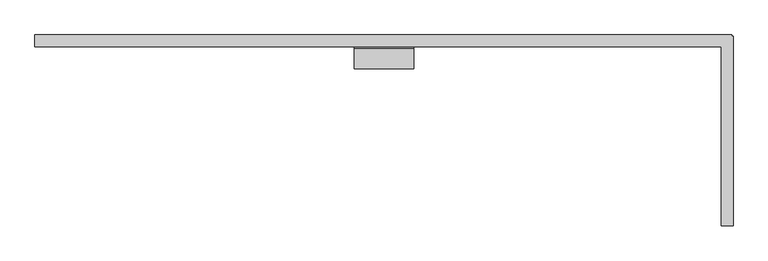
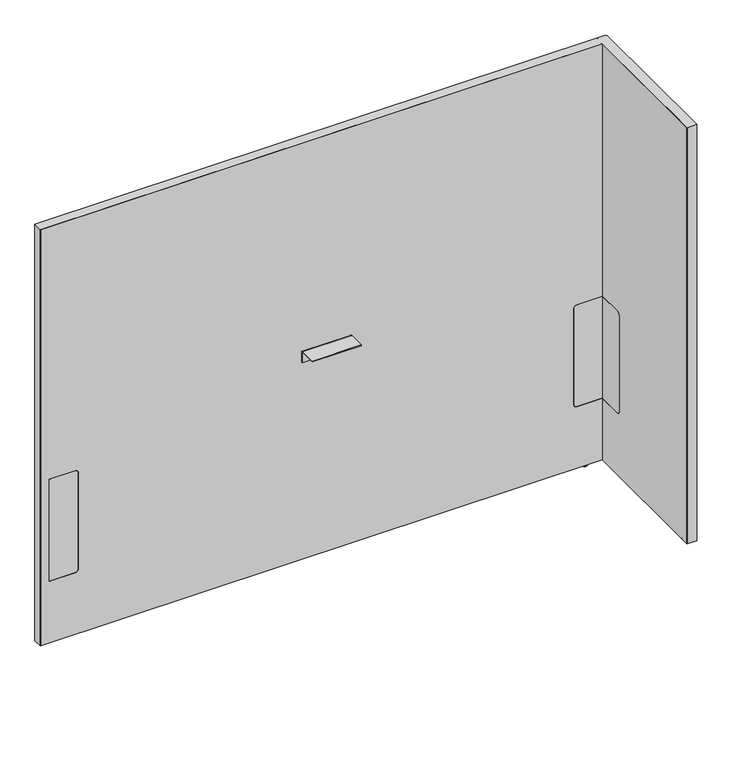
"""IFC4 building model written with IfcOpenShell, lengths in millimetres: furniture geometry, Steelcase - Answer Solution - Boundary Screen - L Return - Single Sided : 54H x 69W."""

from ifc_helpers import new_model, si_unit, point, frame, frame_2d, origin, place, context, project, spatial, polyline, circle_curve, ellipse_curve, trimmed, segment, composite_curve, outline, extrude, faceted_brep, source, transform, mapped, element, save
from ifc_brep_helpers import plane_surface, cylinder_surface, revolved_surface, advanced_brep


def furniture_f73a18ae(model_context):
    return source(origin(), model_context, "Body", "SolidModel", [
        extrude(outline(composite_curve([segment(polyline([(-109.3501471, 549.6162029), (-29.0550397, 549.6162029), (-29.0550397, 213.7762137), (-109.3501471, 213.7762137)]), True, "CONTINUOUS"), segment(trimmed(circle_curve(frame_2d((-109.3501471, 223.9362137)), 10.16), [point((-109.3501471, 213.7762137))], [point((-119.5101471, 223.9362137))], False, "CARTESIAN"), True, "CONTINUOUS"), segment(polyline([(-119.5101471, 223.9362137), (-119.5101471, 539.4562029)]), True, "CONTINUOUS"), segment(trimmed(circle_curve(frame_2d((-109.3501471, 539.4562029)), 10.16), [point((-119.5101471, 539.4562029))], [point((-109.3501471, 549.6162029))], False, "CARTESIAN"), True, "CONTINUOUS")], self_intersect=False)), frame((1982.4191891, 0.0, 0.0), z_axis=(1.0, 0.0, 0.0), x_axis=(0.0, 1.0, 0.0)), (0.0, 0.0, 1.0), 0.6401544),
        advanced_brep(
        [(1997.2672074, -448.0136072, 0.0), (2004.2216144, -448.0136072, 0.0), (1990.3128003, -448.0136072, 0.0), (2005.6762685, -448.0136072, 1.2700001), (1988.8581463, -448.0136072, 1.2700001), (2005.6762685, -448.0136072, 2.9673238), (1988.8581463, -448.0136072, 2.9673238), (2006.6427877, -448.0136072, 2.9673238), (1987.891627, -448.0136072, 2.9673238), (2006.6427877, -448.0136072, 9.9059849), (1987.891627, -448.0136072, 9.9059849), (1997.2672074, -448.0136072, 9.9059849)],
        [
            (0, 1),
            (1, 2, circle_curve(frame((1997.2672074, -448.0136072, 0.0), z_axis=(0.0, 0.0, -1.0), x_axis=(1.0, 0.0, 0.0)), 6.9544071)),
            (2, 0),
            (2, 1, circle_curve(frame((1997.2672074, -448.0136072, 0.0), z_axis=(0.0, 0.0, -1.0), x_axis=(1.0, 0.0, 0.0)), 6.9544071)),
            (1, 3, circle_curve(frame((2004.3945484, -448.0136072, 1.2700001), z_axis=(0.0, -1.0, 0.0), x_axis=(0.0, 0.0, 1.0)), 1.2817201)),
            (3, 4, circle_curve(frame((1997.2672074, -448.0136072, 1.2700001), z_axis=(0.0, 0.0, -1.0), x_axis=(1.0, 0.0, 0.0)), 8.4090611)),
            (4, 2, circle_curve(frame((1990.1398663, -448.0136072, 1.2700001), z_axis=(0.0, -1.0, 0.0), x_axis=(0.0, 0.0, 1.0)), 1.2817201)),
            (4, 3, circle_curve(frame((1997.2672074, -448.0136072, 1.2700001), z_axis=(0.0, 0.0, -1.0), x_axis=(1.0, 0.0, 0.0)), 8.4090611)),
            (3, 5),
            (5, 6, circle_curve(frame((1997.2672074, -448.0136072, 2.9673238), z_axis=(0.0, 0.0, -1.0), x_axis=(1.0, 0.0, 0.0)), 8.4090611)),
            (6, 4),
            (6, 5, circle_curve(frame((1997.2672074, -448.0136072, 2.9673238), z_axis=(0.0, 0.0, -1.0), x_axis=(1.0, 0.0, 0.0)), 8.4090611)),
            (5, 7),
            (7, 8, circle_curve(frame((1997.2672074, -448.0136072, 2.9673238), z_axis=(0.0, 0.0, -1.0), x_axis=(1.0, 0.0, 0.0)), 9.3755804)),
            (8, 6),
            (8, 7, circle_curve(frame((1997.2672074, -448.0136072, 2.9673238), z_axis=(0.0, 0.0, -1.0), x_axis=(1.0, 0.0, 0.0)), 9.3755804)),
            (7, 9),
            (9, 10, circle_curve(frame((1997.2672074, -448.0136072, 9.9059849), z_axis=(0.0, 0.0, -1.0), x_axis=(1.0, 0.0, 0.0)), 9.3755804)),
            (10, 8),
            (10, 9, circle_curve(frame((1997.2672074, -448.0136072, 9.9059849), z_axis=(0.0, 0.0, -1.0), x_axis=(1.0, 0.0, 0.0)), 9.3755804)),
            (9, 11),
            (11, 10),
        ],
        [
            plane_surface(frame((1997.2672074, -448.0136072, 0.0), z_axis=(0.0, 0.0, -1.0), x_axis=(1.0, 0.0, 0.0))),
            revolved_surface(trimmed(ellipse_curve(frame((2004.3945484, -448.0136072, 1.2700001), z_axis=(0.0, 1.0, 0.0), x_axis=(0.0, 0.0, 1.0)), 1.2817201, 1.2817201), [point((2005.6762685, -448.0136072, 1.2700001))], [point((2004.2216144, -448.0136072, 0.0))], True, "CARTESIAN"), (1997.2672074, -448.0136072, 9.9059849), (0.0, 0.0, -1.0)),
            cylinder_surface(frame((1997.2672074, -448.0136072, 9.9059849), z_axis=(0.0, 0.0, -1.0), x_axis=(1.0, 0.0, 0.0)), 8.4090611),
            plane_surface(frame((1997.2672074, -448.0136072, 2.9673238), z_axis=(0.0, 0.0, -1.0), x_axis=(1.0, 0.0, 0.0))),
            cylinder_surface(frame((1997.2672074, -448.0136072, 9.9059849), z_axis=(0.0, 0.0, -1.0), x_axis=(1.0, 0.0, 0.0)), 9.3755804),
            plane_surface(frame((1997.2672074, -448.0136072, 9.9059849), z_axis=(0.0, 0.0, 1.0), x_axis=(1.0, 0.0, 0.0))),
        ],
        [
            (0, [[1, 2, 3]]),
            (0, [[-3, 4, -1]]),
            (1, [[-2, 5, 6, 7]]),
            (1, [[-4, -7, 8, -5]]),
            (2, [[-6, 9, 10, 11]]),
            (2, [[-8, -11, 12, -9]]),
            (3, [[-10, 13, 14, 15]]),
            (3, [[-12, -15, 16, -13]]),
            (4, [[-14, 17, 18, 19]]),
            (4, [[-16, -19, 20, -17]]),
            (5, [[-18, 21, 22]]),
            (5, [[-20, -22, -21]]),
        ],
    ),
        faceted_brep([(2008.8531179, 0.0, 1382.522), (2008.8531179, 0.0, 9.9059849), (2007.8621491, 0.0, 9.9059849), (2007.8621491, 0.0, 1381.542118), (230.8097779, 0.0, 1381.542118), (230.8097779, 0.0, 9.9059849), (229.8191891, 0.0, 9.9059849), (229.8191891, 0.0, 1382.522), (229.8191891, -29.6898332, 1382.522), (229.8191891, -29.6898332, 9.9059849), (230.8097779, -29.6898332, 9.9059849), (230.8097779, -29.6898332, 1381.542118), (1982.4191891, -29.6898332, 1381.542118), (1982.4191891, -29.6898332, 1382.522), (2007.8621491, -29.6898332, 1381.542118), (2007.8621491, -29.6898332, 9.9059849), (2008.8531179, -29.6898332, 9.9059849), (2008.8531179, -29.6898332, 1381.542118), (2008.8531179, -3.2625916, 1382.522), (2008.8531179, -3.2625916, 9.9059849), (2008.8531179, -4.252647, 9.9059849), (2008.8531179, -4.252647, 1381.542118), (2012.1152256, -3.2625916, 9.9059849), (2012.1152256, -4.252647, 9.9059849), (2007.8621491, -4.252647, 9.9059849), (1982.4191891, -4.252647, 9.9059849), (1982.4191891, -3.2625916, 9.9059849), (2007.8621491, -3.2625916, 9.9059849), (1982.4191891, -486.8898332, 1382.522), (2012.1152256, -486.8898332, 1382.522), (2012.1152256, -3.2625916, 1382.522), (2007.8621491, -3.2625916, 1381.542118), (2007.8621491, -4.252647, 1381.542118), (1982.4191891, -3.2625916, 1381.542118), (1982.4191891, -4.252647, 1381.542118), (2012.1152256, -4.252647, 1381.542118), (2012.1152256, -485.899196, 1381.542118), (1982.4191891, -485.899196, 1381.542118), (1982.4191891, -485.899196, 9.9059849), (1982.4191891, -486.8898332, 9.9059849), (2012.1152256, -486.8898332, 9.9059849), (2012.1152256, -485.899196, 9.9059849)], [[[0, 1, 2, 3, 4, 5, 6, 7]], [[8, 9, 10, 11, 12, 13]], [[14, 15, 16, 17]], [[1, 0, 18, 19]], [[17, 16, 20, 21]], [[2, 1, 19, 22, 23, 20, 16, 15, 24, 25, 26, 27]], [[7, 6, 9, 8]], [[0, 7, 8, 13, 28, 29, 30, 18]], [[3, 2, 27, 31]], [[15, 14, 32, 24]], [[4, 3, 31, 33, 34, 32, 14, 17, 21, 35, 36, 37, 12, 11]], [[5, 4, 11, 10]], [[6, 5, 10, 9]], [[26, 25, 34, 33]], [[37, 38, 39, 28, 13, 12]], [[29, 40, 41, 36, 35, 23, 22, 30]], [[27, 26, 33, 31]], [[30, 22, 19, 18]], [[34, 25, 24, 32]], [[23, 35, 21, 20]], [[38, 37, 36, 41]], [[39, 38, 41, 40]], [[28, 39, 40, 29]]]),
        extrude(outline(composite_curve([segment(polyline([(-86.8398151, 696.4680019), (-86.8398151, 698.5), (-34.9450855, 698.5)]), True, "CONTINUOUS"), segment(trimmed(circle_curve(frame_2d((-34.9450855, 693.2447477)), 5.2552523), [point((-34.9450855, 698.5))], [point((-29.6898332, 693.2447477))], False, "CARTESIAN"), True, "CONTINUOUS"), segment(polyline([(-29.6898332, 693.2447477), (-29.6898332, 660.4), (-31.7218162, 660.4), (-31.7218162, 693.0058743)]), True, "CONTINUOUS"), segment(trimmed(circle_curve(frame_2d((-35.1839438, 693.0058743)), 3.4621276), [point((-31.7218162, 693.0058743))], [point((-35.1839438, 696.4680019))], True, "CARTESIAN"), True, "CONTINUOUS"), segment(polyline([(-35.1839438, 696.4680019), (-86.8398151, 696.4680019)]), True, "CONTINUOUS")], self_intersect=False)), frame((1044.7685899, 0.0, 0.0), z_axis=(1.0, 0.0, 0.0), x_axis=(0.0, 1.0, 0.0)), (0.0, 0.0, 1.0), 152.4000969),
        advanced_brep(
        [(1934.9246853, -23.7588726, 9.9059849), (1934.9246853, -5.9309607, 9.9059849), (1934.9246853, -14.8449166, 9.9059849), (1934.9246853, -23.7588726, 2.9673238), (1934.9246853, -5.9309607, 2.9673238), (1934.9246853, -22.7915354, 2.9673238), (1934.9246853, -6.8982978, 2.9673238), (1934.9246853, -22.7915354, 1.6569081), (1934.9246853, -6.8982978, 1.6569081), (1934.9246853, -21.1346274, 0.0), (1934.9246853, -8.5552059, 0.0), (1934.9246853, -14.8449166, 0.0)],
        [
            (0, 1, circle_curve(frame((1934.9246853, -14.8449166, 9.9059849), z_axis=(0.0, 0.0, 1.0), x_axis=(0.0, 1.0, 0.0)), 8.913956)),
            (1, 2),
            (2, 0),
            (1, 0, circle_curve(frame((1934.9246853, -14.8449166, 9.9059849), z_axis=(0.0, 0.0, 1.0), x_axis=(0.0, 1.0, 0.0)), 8.913956)),
            (3, 4, circle_curve(frame((1934.9246853, -14.8449166, 2.9673238), z_axis=(0.0, 0.0, 1.0), x_axis=(0.0, 1.0, 0.0)), 8.913956)),
            (4, 1),
            (0, 3),
            (4, 3, circle_curve(frame((1934.9246853, -14.8449166, 2.9673238), z_axis=(0.0, 0.0, 1.0), x_axis=(0.0, 1.0, 0.0)), 8.913956)),
            (5, 6, circle_curve(frame((1934.9246853, -14.8449166, 2.9673238), z_axis=(0.0, 0.0, 1.0), x_axis=(0.0, 1.0, 0.0)), 7.9466188)),
            (6, 4),
            (3, 5),
            (6, 5, circle_curve(frame((1934.9246853, -14.8449166, 2.9673238), z_axis=(0.0, 0.0, 1.0), x_axis=(0.0, 1.0, 0.0)), 7.9466188)),
            (7, 8, circle_curve(frame((1934.9246853, -14.8449166, 1.6569081), z_axis=(0.0, 0.0, 1.0), x_axis=(0.0, 1.0, 0.0)), 7.9466188)),
            (8, 6),
            (5, 7),
            (8, 7, circle_curve(frame((1934.9246853, -14.8449166, 1.6569081), z_axis=(0.0, 0.0, 1.0), x_axis=(0.0, 1.0, 0.0)), 7.9466188)),
            (9, 10, circle_curve(frame((1934.9246853, -14.8449166, 0.0), z_axis=(0.0, 0.0, 1.0), x_axis=(0.0, 1.0, 0.0)), 6.2897107)),
            (10, 8, circle_curve(frame((1934.9246853, -8.5552059, 1.6569081), z_axis=(1.0, 0.0, 0.0), x_axis=(0.0, 1.0, 0.0)), 1.6569081)),
            (7, 9, circle_curve(frame((1934.9246853, -21.1346274, 1.6569081), z_axis=(1.0, 0.0, 0.0), x_axis=(0.0, -1.0, 0.0)), 1.6569081)),
            (10, 9, circle_curve(frame((1934.9246853, -14.8449166, 0.0), z_axis=(0.0, 0.0, 1.0), x_axis=(0.0, 1.0, 0.0)), 6.2897107)),
            (11, 10),
            (9, 11),
        ],
        [
            plane_surface(frame((1934.9246853, -14.8449166, 9.9059849), z_axis=(0.0, 0.0, 1.0), x_axis=(0.0, 1.0, 0.0))),
            cylinder_surface(frame((1934.9246853, -14.8449166, 9.9059849), z_axis=(0.0, 0.0, -1.0), x_axis=(0.0, 1.0, 0.0)), 8.913956),
            plane_surface(frame((1934.9246853, -14.8449166, 2.9673238), z_axis=(0.0, 0.0, -1.0), x_axis=(0.0, 1.0, 0.0))),
            cylinder_surface(frame((1934.9246853, -14.8449166, 9.9059849), z_axis=(0.0, 0.0, -1.0), x_axis=(0.0, 1.0, 0.0)), 7.9466188),
            revolved_surface(trimmed(ellipse_curve(frame((1934.9246853, -8.5552059, 1.6569081), z_axis=(-1.0, 0.0, 0.0), x_axis=(0.0, 1.0, 0.0)), 1.6569081, 1.6569081), [point((1934.9246853, -6.8982978, 1.6569081))], [point((1934.9246853, -8.5552059, 0.0))], True, "CARTESIAN"), (1934.9246853, -14.8449166, 9.9059849), (0.0, 0.0, -1.0)),
            plane_surface(frame((1934.9246853, -14.8449166, 0.0), z_axis=(0.0, 0.0, -1.0), x_axis=(0.0, 1.0, 0.0))),
        ],
        [
            (0, [[1, 2, 3]]),
            (0, [[4, -3, -2]]),
            (1, [[5, 6, -1, 7]]),
            (1, [[8, -7, -4, -6]]),
            (2, [[9, 10, -5, 11]]),
            (2, [[12, -11, -8, -10]]),
            (3, [[13, 14, -9, 15]]),
            (3, [[16, -15, -12, -14]]),
            (4, [[17, 18, -13, 19]]),
            (4, [[20, -19, -16, -18]]),
            (5, [[21, -17, 22]]),
            (5, [[-22, -20, -21]]),
        ],
    ),
        advanced_brep(
        [(230.8097779, 0.0, 1381.542118), (2007.8621491, 0.0, 1381.542118), (2007.8621491, 0.0, 9.9059849), (230.8097779, 0.0, 9.9059849), (347.9483813, -29.0550397, 539.4562029), (337.7883813, -29.0550397, 549.6162029), (258.1344836, -29.0550397, 549.6162029), (258.1344836, -29.0550397, 213.7762137), (337.7883813, -29.0550397, 213.7762137), (347.9483813, -29.0550397, 223.9362137), (1983.0593435, -29.0550397, 213.7762137), (1983.0593435, -29.0550397, 549.6162029), (1902.5109268, -29.0550397, 549.6162029), (1892.3509268, -29.0550397, 539.4562029), (1892.3509268, -29.0550397, 223.9362137), (1902.5109268, -29.0550397, 213.7762137), (230.8097779, -29.6898332, 1381.542118), (230.8097779, -29.6898332, 9.9059849), (1982.4191891, -29.6898332, 9.9059849), (1982.4191891, -29.6898332, 213.7762137), (1902.5109268, -29.6898332, 213.7762137), (1892.3509268, -29.6898332, 223.9362137), (1892.3509268, -29.6898332, 539.4562029), (1902.5109268, -29.6898332, 549.6162029), (1982.4191891, -29.6898332, 549.6162029), (1982.4191891, -29.6898332, 1381.542118), (337.7883813, -29.6898332, 549.6162029), (347.9483813, -29.6898332, 539.4562029), (347.9483813, -29.6898332, 223.9362137), (337.7883813, -29.6898332, 213.7762137), (258.1344836, -29.6898332, 213.7762137), (258.1344836, -29.6898332, 549.6162029), (2007.8621491, -4.252647, 9.9059849), (2012.1152256, -4.252647, 9.9059849), (2012.1152256, -485.899196, 9.9059849), (1982.4191891, -485.899196, 9.9059849), (2007.8621491, -4.252647, 1381.542118), (1982.4191891, -485.899196, 1381.542118), (2012.1152256, -485.899196, 1381.542118), (2012.1152256, -4.252647, 1381.542118), (1983.0593435, -109.3501471, 549.6162029), (1982.4191891, -109.3501471, 549.6162029), (1983.0593435, -109.3501471, 213.7762137), (1983.0593435, -119.5101471, 223.9362137), (1983.0593435, -119.5101471, 539.4562029), (1982.4191891, -109.3501471, 213.7762137), (1982.4191891, -119.5101471, 539.4562029), (1982.4191891, -119.5101471, 223.9362137)],
        [
            (0, 1),
            (1, 2),
            (2, 3),
            (3, 0),
            (4, 5, circle_curve(frame((337.7883813, -29.0550397, 539.4562029), z_axis=(0.0, -1.0, 0.0), x_axis=(0.0, 0.0, 1.0)), 10.16)),
            (5, 6),
            (6, 7),
            (7, 8),
            (8, 9, circle_curve(frame((337.7883813, -29.0550397, 223.9362137), z_axis=(0.0, -1.0, 0.0), x_axis=(0.0, 0.0, 1.0)), 10.16)),
            (9, 4),
            (10, 11),
            (11, 12),
            (12, 13, circle_curve(frame((1902.5109268, -29.0550397, 539.4562029), z_axis=(0.0, -1.0, 0.0), x_axis=(0.0, 0.0, 1.0)), 10.16)),
            (13, 14),
            (14, 15, circle_curve(frame((1902.5109268, -29.0550397, 223.9362137), z_axis=(0.0, -1.0, 0.0), x_axis=(0.0, 0.0, 1.0)), 10.16)),
            (15, 10),
            (16, 17),
            (17, 18),
            (18, 19),
            (19, 20),
            (20, 21, circle_curve(frame((1902.5109268, -29.6898332, 223.9362137), z_axis=(0.0, 1.0, 0.0), x_axis=(0.0, 0.0, 1.0)), 10.16)),
            (21, 22),
            (22, 23, circle_curve(frame((1902.5109268, -29.6898332, 539.4562029), z_axis=(0.0, 1.0, 0.0), x_axis=(0.0, 0.0, 1.0)), 10.16)),
            (23, 24),
            (24, 25),
            (25, 16),
            (26, 27, circle_curve(frame((337.7883813, -29.6898332, 539.4562029), z_axis=(0.0, 1.0, 0.0), x_axis=(0.0, 0.0, 1.0)), 10.16)),
            (27, 28),
            (28, 29, circle_curve(frame((337.7883813, -29.6898332, 223.9362137), z_axis=(0.0, 1.0, 0.0), x_axis=(0.0, 0.0, 1.0)), 10.16)),
            (29, 30),
            (30, 31),
            (31, 26),
            (16, 0),
            (3, 17),
            (2, 32),
            (32, 33),
            (33, 34),
            (34, 35),
            (35, 18),
            (1, 36),
            (36, 32),
            (25, 37),
            (37, 38),
            (38, 39),
            (39, 36),
            (26, 5),
            (4, 27),
            (9, 28),
            (8, 29),
            (7, 30),
            (6, 31),
            (11, 40),
            (40, 41),
            (41, 24),
            (23, 12),
            (42, 43, circle_curve(frame((1983.0593435, -109.3501471, 223.9362137), z_axis=(-1.0, 0.0, 0.0), x_axis=(0.0, 1.0, 0.0)), 10.16)),
            (43, 44),
            (44, 40, circle_curve(frame((1983.0593435, -109.3501471, 539.4562029), z_axis=(-1.0, 0.0, 0.0), x_axis=(0.0, 1.0, 0.0)), 10.16)),
            (10, 42),
            (15, 20),
            (19, 45),
            (45, 42),
            (14, 21),
            (13, 22),
            (35, 37),
            (41, 46, circle_curve(frame((1982.4191891, -109.3501471, 539.4562029), z_axis=(1.0, 0.0, 0.0), x_axis=(0.0, 1.0, 0.0)), 10.16)),
            (46, 47),
            (47, 45, circle_curve(frame((1982.4191891, -109.3501471, 223.9362137), z_axis=(1.0, 0.0, 0.0), x_axis=(0.0, 1.0, 0.0)), 10.16)),
            (38, 34),
            (33, 39),
            (44, 46),
            (43, 47),
        ],
        [
            plane_surface(frame((347.9483813, 0.0, 549.6162029), z_axis=(0.0, 1.0, 0.0), x_axis=(0.0, 0.0, -1.0))),
            plane_surface(frame((347.9483813, -29.0550397, 549.6162029), z_axis=(0.0, -1.0, 0.0), x_axis=(0.0, 0.0, 1.0))),
            plane_surface(frame((2007.8621491, -29.6898332, 1381.542118), z_axis=(0.0, -1.0, 0.0), x_axis=(-1.0, 0.0, 0.0))),
            plane_surface(frame((230.8097779, 0.0, 9.9059849), z_axis=(-1.0, 0.0, 0.0), x_axis=(0.0, -1.0, 0.0))),
            plane_surface(frame((2007.8621491, 0.0, 9.9059849), z_axis=(0.0, 0.0, -1.0), x_axis=(0.0, -1.0, 0.0))),
            plane_surface(frame((2007.8621491, 0.0, 1381.542118), z_axis=(1.0, 0.0, 0.0), x_axis=(0.0, -1.0, 0.0))),
            plane_surface(frame((230.8097779, 0.0, 1381.542118), z_axis=(0.0, 0.0, 1.0), x_axis=(0.0, -1.0, 0.0))),
            revolved_surface(polyline([(337.7883813, -29.6898332, 549.6162029), (337.7883813, -29.0550397, 549.6162029)]), (337.7883813, -29.6898332, 539.4562029), (0.0, -1.0, 0.0)),
            plane_surface(frame((347.9483813, 0.0, 223.9362137), z_axis=(-1.0, 0.0, 0.0), x_axis=(0.0, -1.0, 0.0))),
            revolved_surface(polyline([(337.7883813, -29.6898332, 234.0962137), (337.7883813, -29.0550397, 234.0962137)]), (337.7883813, -29.6898332, 223.9362137), (0.0, -1.0, 0.0)),
            plane_surface(frame((258.1344836, 0.0, 213.7762137), z_axis=(0.0, 0.0, 1.0), x_axis=(0.0, -1.0, 0.0))),
            plane_surface(frame((258.1344836, 0.0, 549.6162029), z_axis=(1.0, 0.0, 0.0), x_axis=(0.0, -1.0, 0.0))),
            plane_surface(frame((337.7883813, 0.0, 549.6162029), z_axis=(0.0, 0.0, -1.0), x_axis=(0.0, -1.0, 0.0))),
            plane_surface(frame((1983.0593435, 0.0, 549.6162029), z_axis=(0.0, 0.0, -1.0), x_axis=(0.0, -1.0, 0.0))),
            plane_surface(frame((1983.0593435, 0.0, 213.7762137), z_axis=(-1.0, 0.0, 0.0), x_axis=(0.0, -1.0, 0.0))),
            plane_surface(frame((1902.5109268, 0.0, 213.7762137), z_axis=(0.0, 0.0, 1.0), x_axis=(0.0, -1.0, 0.0))),
            revolved_surface(polyline([(1902.5109268, -29.6898332, 234.0962137), (1902.5109268, -29.0550397, 234.0962137)]), (1902.5109268, -29.6898332, 223.9362137), (0.0, -1.0, 0.0)),
            plane_surface(frame((1892.3509268, 0.0, 539.4562029), z_axis=(1.0, 0.0, 0.0), x_axis=(0.0, -1.0, 0.0))),
            revolved_surface(polyline([(1902.5109268, -29.6898332, 549.6162029), (1902.5109268, -29.0550397, 549.6162029)]), (1902.5109268, -29.6898332, 539.4562029), (0.0, -1.0, 0.0)),
            plane_surface(frame((1982.4191891, -485.899196, 1381.542118), z_axis=(-1.0, 0.0, 0.0), x_axis=(0.0, 0.0, 1.0))),
            plane_surface(frame((2012.1152256, -485.899196, 1381.542118), z_axis=(1.0, 0.0, 0.0), x_axis=(0.0, 0.0, -1.0))),
            plane_surface(frame((2012.1152256, -4.252647, 9.9059849), z_axis=(0.0, 1.0, 0.0), x_axis=(-1.0, 0.0, 0.0))),
            plane_surface(frame((2012.1152256, -485.899196, 1381.542118), z_axis=(0.0, -1.0, 0.0), x_axis=(-1.0, 0.0, 0.0))),
            revolved_surface(polyline([(1982.4191891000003, -99.1901471, 539.4562029), (1983.0593435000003, -99.1901471, 539.4562029)]), (-340.6902705, -109.3501471, 539.4562029), (-1.0, 0.0, 0.0)),
            plane_surface(frame((2012.1152256, -119.5101471, 223.9362137), z_axis=(0.0, 1.0, 0.0), x_axis=(-1.0, 0.0, 0.0))),
            revolved_surface(polyline([(1982.4191891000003, -99.1901471, 223.9362137), (1983.0593435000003, -99.1901471, 223.9362137)]), (-340.6902705, -109.3501471, 223.9362137), (-1.0, 0.0, 0.0)),
        ],
        [
            (0, [[1, 2, 3, 4]]),
            (1, [[5, 6, 7, 8, 9, 10]]),
            (1, [[11, 12, 13, 14, 15, 16]]),
            (2, [[17, 18, 19, 20, 21, 22, 23, 24, 25, 26], [27, 28, 29, 30, 31, 32]]),
            (3, [[-17, 33, -4, 34]]),
            (4, [[-3, 35, 36, 37, 38, 39, -18, -34]]),
            (5, [[-2, 40, 41, -35]]),
            (6, [[-1, -33, -26, 42, 43, 44, 45, -40]]),
            (7, [[-27, 46, -5, 47]]),
            (8, [[-28, -47, -10, 48]]),
            (9, [[-29, -48, -9, 49]]),
            (10, [[-30, -49, -8, 50]]),
            (11, [[-31, -50, -7, 51]]),
            (12, [[-32, -51, -6, -46]]),
            (13, [[52, 53, 54, -24, 55, -12]]),
            (14, [[56, 57, 58, -52, -11, 59]]),
            (15, [[-59, -16, 60, -20, 61, 62]]),
            (16, [[-21, -60, -15, 63]]),
            (17, [[-22, -63, -14, 64]]),
            (18, [[-23, -64, -13, -55]]),
            (19, [[65, -42, -25, -54, 66, 67, 68, -61, -19, -39]]),
            (20, [[69, -37, 70, -44]]),
            (21, [[-70, -36, -41, -45]]),
            (22, [[-65, -38, -69, -43]]),
            (23, [[-66, -53, -58, 71]]),
            (24, [[-67, -71, -57, 72]]),
            (25, [[-68, -72, -56, -62]]),
        ],
    ),
        extrude(outline(composite_curve([segment(polyline([(549.6162029, 337.7883813), (549.6162029, 258.1344836), (213.7762137, 258.1344836), (213.7762137, 337.7883813)]), True, "CONTINUOUS"), segment(trimmed(circle_curve(frame_2d((223.9362137, 337.7883813)), 10.16), [point((213.7762137, 337.7883813))], [point((223.9362137, 347.9483813))], False, "CARTESIAN"), True, "CONTINUOUS"), segment(polyline([(223.9362137, 347.9483813), (539.4562029, 347.9483813)]), True, "CONTINUOUS"), segment(trimmed(circle_curve(frame_2d((539.4562029, 337.7883813)), 10.16), [point((539.4562029, 347.9483813))], [point((549.6162029, 337.7883813))], False, "CARTESIAN"), True, "CONTINUOUS")], self_intersect=False)), frame((0.0, -29.6898332, 0.0), z_axis=(0.0, 1.0, 0.0), x_axis=(0.0, 0.0, 1.0)), (0.0, 0.0, 1.0), 0.6347935),
        extrude(outline(composite_curve([segment(trimmed(circle_curve(frame_2d((539.4562029, 1902.5109268)), 10.16), [point((549.6162029, 1902.5109268))], [point((539.4562029, 1892.3509268))], False, "CARTESIAN"), True, "CONTINUOUS"), segment(polyline([(539.4562029, 1892.3509268), (223.9362137, 1892.3509268)]), True, "CONTINUOUS"), segment(trimmed(circle_curve(frame_2d((223.9362137, 1902.5109268)), 10.16), [point((223.9362137, 1892.3509268))], [point((213.7762137, 1902.5109268))], False, "CARTESIAN"), True, "CONTINUOUS"), segment(polyline([(213.7762137, 1902.5109268), (213.7762137, 1982.4191891), (549.6162029, 1982.4191891), (549.6162029, 1902.5109268)]), True, "CONTINUOUS")], self_intersect=False)), frame((0.0, -29.6898332, 0.0), z_axis=(0.0, 1.0, 0.0), x_axis=(0.0, 0.0, 1.0)), (0.0, 0.0, 1.0), 0.6347935),
    ])


if __name__ == "__main__":
    model = new_model("IFC4")
    model_context = context("Model", 3, world=origin())
    ifc_project = project(units=[si_unit("LENGTHUNIT", "METRE", prefix="MILLI")], contexts=[model_context])
    site = spatial("IfcSite", under=ifc_project)
    building = spatial("IfcBuilding", under=site)
    placement = place(None, origin())
    furniture_shape = furniture_f73a18ae(model_context)
    element("IfcFurniture", 1, ObjectType="Steelcase - Answer Solution - Boundary Screen - L Return - Single Sided : 54H x 69W", at=placement, inside=building, context=model_context, shape_type="MappedRepresentation", body=[
        mapped(furniture_shape, transform((0.0, 0.0, 0.0), x_axis=(1.0, 0.0, 0.0), y_axis=(0.0, 1.0, 0.0), z_axis=(0.0, 0.0, 1.0))),
    ])
    save(model, "model.ifc")
